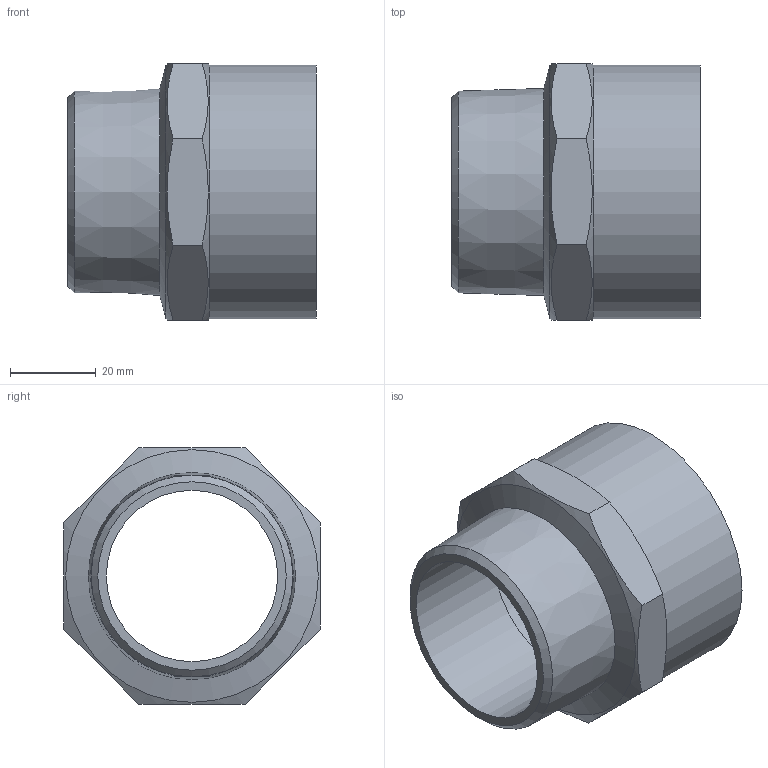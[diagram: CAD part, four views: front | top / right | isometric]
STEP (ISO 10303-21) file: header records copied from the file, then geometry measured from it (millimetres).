
FILE_DESCRIPTION((''),'2;1');
FILE_NAME('\\Lg50001\Groups\SANHA Legnica\Engineering\Public\RYSUNKI\SANHA POLSKA\4243G\step\14243_54-112(1).stp','2008-08-27T09:02:25',('pajchrowski'),(''),'Autodesk Inventor 2008','Autodesk Inventor 2008','');
FILE_SCHEMA(('AUTOMOTIVE_DESIGN { 1 0 10303 214 1 1 1 1 }'));
Length unit declared in the file: millimetre
Products named in the file (1): 14243_54-112(1)
Bounding box: 58 x 59.85 x 59.85 mm (x, y, z)
Volume: 33267.9 mm3; surface area: 21600.6 mm2
Topology: 1 solids, 1 shells, 19 faces, 44 edges, 28 vertices
Faces by surface type: plane 11, cone 5, cylinder 3
Full cylindrical faces by diameter (mm): 40 x1, 54.13 x1, 59.15 x1
Entity records: 492 total; most frequent: CARTESIAN_POINT 112, DIRECTION 68, ORIENTED_EDGE 68, EDGE_CURVE 34, AXIS2_PLACEMENT_3D 30, EDGE_LOOP 30, VERTEX_POINT 26, FACE_OUTER_BOUND 19
